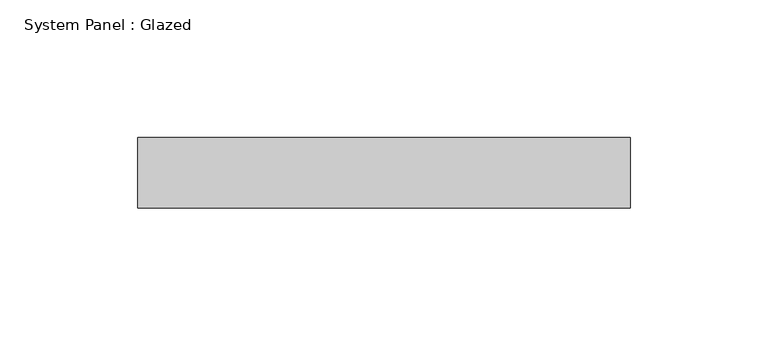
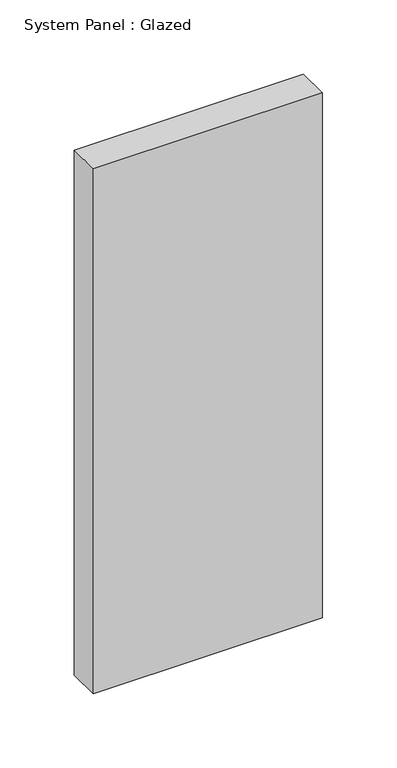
"""IFC4 building model written with IfcOpenShell, lengths in millimetres: plate geometry, System Panel : Glazed."""

from ifc_helpers import new_model, si_unit, origin, origin_with_axes, place, context, project, spatial, polyline, outline, extrude, source, transform, mapped, element, save


def system_panel_glazed_c51966c8(model_context):
    return source(origin(), model_context, "Body", "SweptSolid", [
        extrude(outline(polyline([(89.1999381, 19.05), (-89.1999381, 19.05), (-89.1999381, 44.45), (89.1999381, 44.45), (89.1999381, 19.05)])), origin_with_axes(), (0.0, 0.0, 1.0), 431.8),
    ])


if __name__ == "__main__":
    model = new_model("IFC4")
    model_context = context("Model", 3, world=origin())
    ifc_project = project(units=[si_unit("LENGTHUNIT", "METRE", prefix="MILLI")], contexts=[model_context])
    site = spatial("IfcSite", under=ifc_project)
    building = spatial("IfcBuilding", under=site)
    placement = place(None, origin())
    system_panel_glazed_shape = system_panel_glazed_c51966c8(model_context)
    element("IfcPlate", 1, ObjectType="System Panel : Glazed", at=placement, inside=building, context=model_context, shape_type="MappedRepresentation", body=[
        mapped(system_panel_glazed_shape, transform((0.0, 0.0, 0.0), x_axis=(1.0, 0.0, 0.0), y_axis=(0.0, 1.0, 0.0), z_axis=(0.0, 0.0, 1.0))),
    ])
    save(model, "model.ifc")
